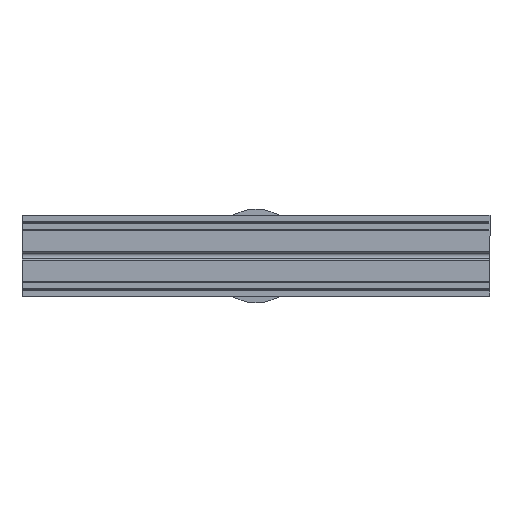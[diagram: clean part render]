
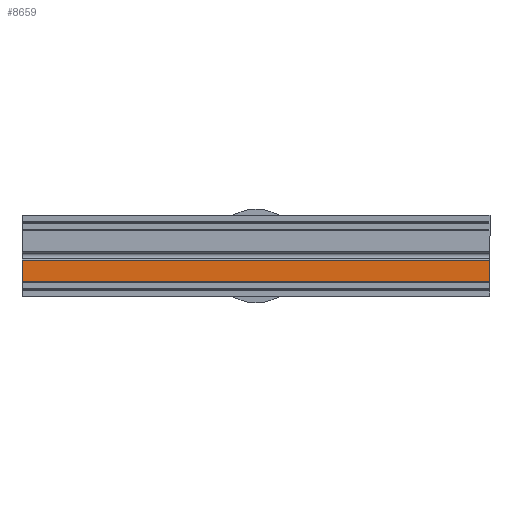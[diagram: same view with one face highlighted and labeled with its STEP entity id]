
A CAD part, front view. The second image highlights one B-rep face of the part: STEP entity #8659.
In plain terms, the highlighted planar face has unit normal (0, -1, 0).
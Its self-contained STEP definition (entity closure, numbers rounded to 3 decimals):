
#67 = DIRECTION ( 'NONE',  ( 0., 0., 1. ) ) ;
#100 = VERTEX_POINT ( 'NONE', #1582 ) ;
#920 = CARTESIAN_POINT ( 'NONE',  ( 2.018, -40., 0. ) ) ;
#1141 = EDGE_CURVE ( 'NONE', #7278, #8869, #7659, .T. ) ;
#1573 = ORIENTED_EDGE ( 'NONE', *, *, #9714, .T. ) ;
#1582 = CARTESIAN_POINT ( 'NONE',  ( 2.018, -40., 0. ) ) ;
#1804 = LINE ( 'NONE', #920, #10347 ) ;
#2004 = DIRECTION ( 'NONE',  ( 0., 1., 0. ) ) ;
#3056 = CARTESIAN_POINT ( 'NONE',  ( 2.018, -40., -200. ) ) ;
#3086 = CARTESIAN_POINT ( 'NONE',  ( 11.1, -40., 0. ) ) ;
#3985 = ORIENTED_EDGE ( 'NONE', *, *, #5694, .F. ) ;
#4325 = ORIENTED_EDGE ( 'NONE', *, *, #1141, .T. ) ;
#4710 = VECTOR ( 'NONE', #6986, 1000. ) ;
#5007 = EDGE_LOOP ( 'NONE', ( #7473, #3985, #1573, #4325 ) ) ;
#5487 = VECTOR ( 'NONE', #8986, 1000. ) ;
#5694 = EDGE_CURVE ( 'NONE', #100, #8820, #7072, .T. ) ;
#5935 = CARTESIAN_POINT ( 'NONE',  ( 11.1, -40., 0. ) ) ;
#6195 = PLANE ( 'NONE',  #6995 ) ;
#6880 = CARTESIAN_POINT ( 'NONE',  ( 2.018, -40., -200. ) ) ;
#6986 = DIRECTION ( 'NONE',  ( 1., 0., 0. ) ) ;
#6995 = AXIS2_PLACEMENT_3D ( 'NONE', #9565, #2004, #67 ) ;
#7072 = LINE ( 'NONE', #10418, #5487 ) ;
#7278 = VERTEX_POINT ( 'NONE', #3056 ) ;
#7473 = ORIENTED_EDGE ( 'NONE', *, *, #8516, .F. ) ;
#7659 = LINE ( 'NONE', #6880, #4710 ) ;
#8516 = EDGE_CURVE ( 'NONE', #8820, #8869, #10114, .T. ) ;
#8659 = ADVANCED_FACE ( 'NONE', ( #10384 ), #6195, .F. ) ;
#8820 = VERTEX_POINT ( 'NONE', #3086 ) ;
#8869 = VERTEX_POINT ( 'NONE', #9184 ) ;
#8986 = DIRECTION ( 'NONE',  ( 1., 0., 0. ) ) ;
#9184 = CARTESIAN_POINT ( 'NONE',  ( 11.1, -40., -200. ) ) ;
#9301 = DIRECTION ( 'NONE',  ( 0., 0., -1. ) ) ;
#9565 = CARTESIAN_POINT ( 'NONE',  ( 2.018, -40., 0. ) ) ;
#9714 = EDGE_CURVE ( 'NONE', #100, #7278, #1804, .T. ) ;
#9815 = VECTOR ( 'NONE', #9301, 1000. ) ;
#10114 = LINE ( 'NONE', #5935, #9815 ) ;
#10130 = DIRECTION ( 'NONE',  ( 0., 0., -1. ) ) ;
#10347 = VECTOR ( 'NONE', #10130, 1000. ) ;
#10384 = FACE_OUTER_BOUND ( 'NONE', #5007, .T. ) ;
#10418 = CARTESIAN_POINT ( 'NONE',  ( 2.018, -40., 0. ) ) ;
